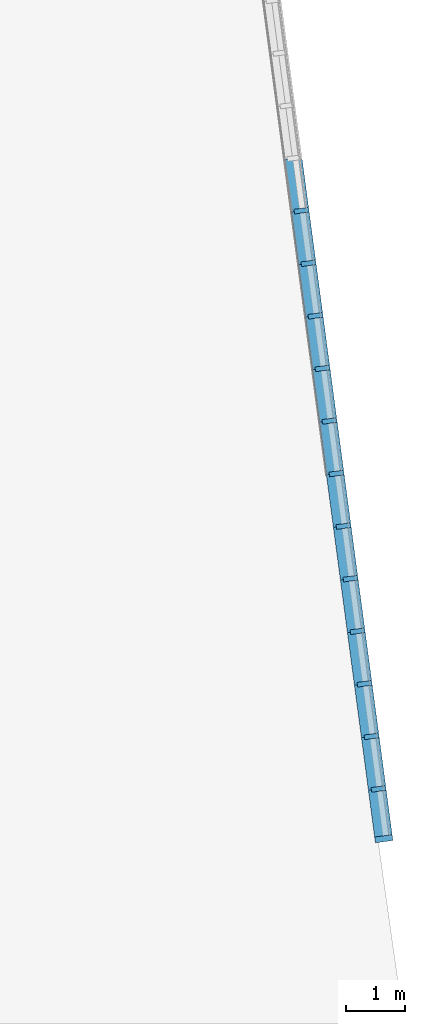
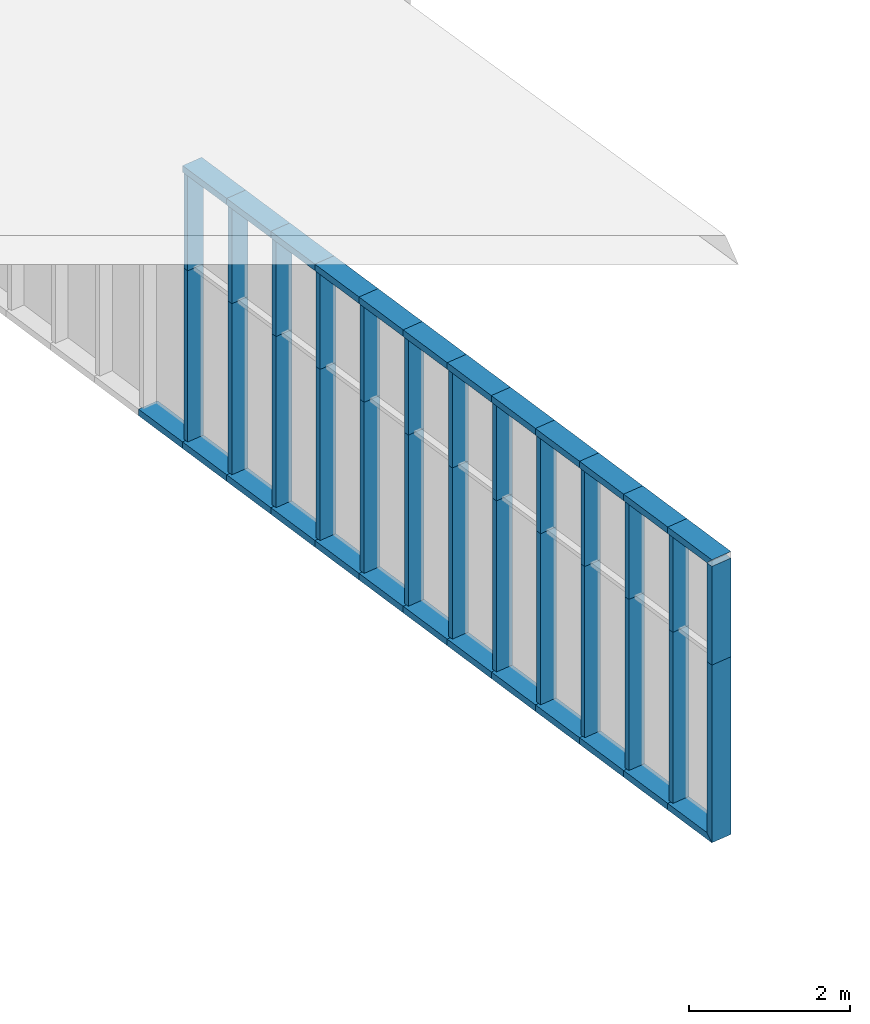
# One storey, part 1 of 17: 51 members, 1 element without a shape of its own.
"""IFC2X3 building model written with IfcOpenShell, lengths in metres."""

from ifc_helpers import new_model, entity, si_unit, converted_unit, money_unit, direction, frame, origin_with_axes, place, context, subcontext, project, spatial, polyline, outline, extrude, clip, halfspace, material, type_object, element, aggregate, save


model = new_model("IFC2X3")

# Units and contexts
model_context = context("Model", 3, precision=1e-05, world=origin_with_axes(), true_north=direction((0.0, 1.0)))
body_context = subcontext(model_context, "Body", "Model", "MODEL_VIEW")
ifc_project = project(units=[si_unit("LENGTHUNIT", "METRE"), si_unit("AREAUNIT", "SQUARE_METRE"), si_unit("VOLUMEUNIT", "CUBIC_METRE"), converted_unit("PLANEANGLEUNIT", "DEGREE", entity("IfcPlaneAngleMeasure", 0.0174532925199), si_unit("PLANEANGLEUNIT", "RADIAN"), dimensions=[0, 0, 0, 0, 0, 0, 0]), si_unit("SOLIDANGLEUNIT", "STERADIAN"), money_unit("EUR"), converted_unit("TIMEUNIT", "Year", entity("IfcTimeMeasure", 31556926.0), si_unit("TIMEUNIT", "SECOND"), dimensions=[0, 0, 0, 0, 0, 0, 0]), si_unit("MASSUNIT", "GRAM"), si_unit("THERMODYNAMICTEMPERATUREUNIT", "DEGREE_CELSIUS"), si_unit("LUMINOUSINTENSITYUNIT", "LUMEN")], contexts=[model_context])

# Site, building, storey
site_placement = place(None, origin_with_axes())
site = spatial("IfcSite", under=ifc_project, at=site_placement, Name="Undefined", CompositionType="ELEMENT")
building_placement = place(site_placement, origin_with_axes())
building = spatial("IfcBuilding", under=site, at=building_placement, Name="Undefined", CompositionType="ELEMENT")
storey_placement = place(building_placement, frame((0.0, 0.0, 9.425), z_axis=(0.0, 0.0, 1.0), x_axis=(1.0, 0.0, 0.0)))
storey = spatial("IfcBuildingStorey", under=building, at=storey_placement, Name="Mezzannine", CompositionType="ELEMENT", Elevation=9.425)

# Curtain wall, members
curtain_wall_type = type_object("IfcCurtainWallType", Name="Type de mur-rideau", PredefinedType="NOTDEFINED")
curtain_wall_placement = place(storey_placement, frame((66.1412459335, 18.707491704, -9.32500003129), z_axis=(0.0, 0.0, 1.0), x_axis=(1.0, 0.0, 0.0)))
curtain_wall = element("IfcCurtainWall", 1, at=curtain_wall_placement, inside=storey, type_object=curtain_wall_type, Name="CurtainWall_02", ObjectType="CURTAIN WALL")
ifc_material = material(Name="25 % 359672764")
member_type_1 = type_object("IfcMemberType", Name="Cadre 100 x 300", PredefinedType="NOTDEFINED")
member_1_placement = place(curtain_wall_placement, frame((1.96156196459, -14.7198768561, -1.0673850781e-07), z_axis=(-0.132091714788, 0.991237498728, 0.0), x_axis=(0.0, 0.0, 1.0)))
member_1 = element("IfcMember", 2, at=member_1_placement, type_object=member_type_1, material=ifc_material, Name="Frame-Bnd-429", context=body_context, shape_type="SweptSolid", body=[
    extrude(outline(polyline([(-0.25, -0.1), (0.05, -0.1), (0.05, 0.0), (-0.25, 0.0), (-0.25, -0.1)])), frame((0.0, 0.0, 0.0), z_axis=(0.0, 0.0, 1.0), x_axis=(0.0, 1.0, 0.0)), (0.0, 0.0, 1.0), 0.9),
])
member_2_placement = place(curtain_wall_placement, frame((0.772736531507, -5.79873936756, -1.0673850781e-07), z_axis=(-0.132091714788, 0.991237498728, 0.0), x_axis=(0.0, 0.0, 1.0)))
member_2 = element("IfcMember", 3, at=member_2_placement, type_object=member_type_1, material=ifc_material, Name="Frame-Bnd-419", context=body_context, shape_type="SweptSolid", body=[
    extrude(outline(polyline([(-0.25, -0.1), (0.05, -0.1), (0.05, 0.0), (-0.25, 0.0), (-0.25, -0.1)])), frame((0.0, 0.0, 0.0), z_axis=(0.0, 0.0, 1.0), x_axis=(0.0, 1.0, 0.0)), (0.0, 0.0, 1.0), 0.9),
])
member_3_placement = place(curtain_wall_placement, frame((1.84267942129, -13.8277631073, -1.0673850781e-07), z_axis=(-0.132091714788, 0.991237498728, 0.0), x_axis=(0.0, 0.0, 1.0)))
member_3 = element("IfcMember", 4, at=member_3_placement, type_object=member_type_1, material=ifc_material, Name="Frame-Bnd-428", context=body_context, shape_type="SweptSolid", body=[
    extrude(outline(polyline([(-0.25, -0.1), (0.05, -0.1), (0.05, 0.0), (-0.25, 0.0), (-0.25, -0.1)])), frame((0.0, 0.0, 0.0), z_axis=(0.0, 0.0, 1.0), x_axis=(0.0, 1.0, 0.0)), (0.0, 0.0, 1.0), 0.9),
])
member_4_placement = place(curtain_wall_placement, frame((1.72379687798, -12.9356493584, -1.0673850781e-07), z_axis=(-0.132091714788, 0.991237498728, 0.0), x_axis=(0.0, 0.0, 1.0)))
member_4 = element("IfcMember", 5, at=member_4_placement, type_object=member_type_1, material=ifc_material, Name="Frame-Bnd-427", context=body_context, shape_type="SweptSolid", body=[
    extrude(outline(polyline([(-0.25, -0.1), (0.05, -0.1), (0.05, 0.0), (-0.25, 0.0), (-0.25, -0.1)])), frame((0.0, 0.0, 0.0), z_axis=(0.0, 0.0, 1.0), x_axis=(0.0, 1.0, 0.0)), (0.0, 0.0, 1.0), 0.9),
])
member_5_placement = place(curtain_wall_placement, frame((0.653853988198, -4.9066256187, -1.0673850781e-07), z_axis=(-0.132091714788, 0.991237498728, 0.0), x_axis=(0.0, 0.0, 1.0)))
member_5 = element("IfcMember", 6, at=member_5_placement, type_object=member_type_1, material=ifc_material, Name="Frame-Bnd-418", context=body_context, shape_type="SweptSolid", body=[
    extrude(outline(polyline([(-0.25, -0.1), (0.05, -0.1), (0.05, 0.0), (-0.25, 0.0), (-0.25, -0.1)])), frame((0.0, 0.0, 0.0), z_axis=(0.0, 0.0, 1.0), x_axis=(0.0, 1.0, 0.0)), (0.0, 0.0, 1.0), 0.9),
])
member_6_placement = place(curtain_wall_placement, frame((1.60491433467, -12.0435356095, -1.0673850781e-07), z_axis=(-0.132091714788, 0.991237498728, 0.0), x_axis=(0.0, 0.0, 1.0)))
member_6 = element("IfcMember", 7, at=member_6_placement, type_object=member_type_1, material=ifc_material, Name="Frame-Bnd-426", context=body_context, shape_type="SweptSolid", body=[
    extrude(outline(polyline([(-0.25, -0.1), (0.05, -0.1), (0.05, 0.0), (-0.25, 0.0), (-0.25, -0.1)])), frame((0.0, 0.0, 0.0), z_axis=(0.0, 0.0, 1.0), x_axis=(0.0, 1.0, 0.0)), (0.0, 0.0, 1.0), 0.9),
])
member_7_placement = place(curtain_wall_placement, frame((1.48603179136, -11.1514218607, -1.0673850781e-07), z_axis=(-0.132091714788, 0.991237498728, 0.0), x_axis=(0.0, 0.0, 1.0)))
member_7 = element("IfcMember", 8, at=member_7_placement, type_object=member_type_1, material=ifc_material, Name="Frame-Bnd-425", context=body_context, shape_type="SweptSolid", body=[
    extrude(outline(polyline([(-0.25, -0.1), (0.05, -0.1), (0.05, 0.0), (-0.25, 0.0), (-0.25, -0.1)])), frame((0.0, 0.0, 0.0), z_axis=(0.0, 0.0, 1.0), x_axis=(0.0, 1.0, 0.0)), (0.0, 0.0, 1.0), 0.9),
])
member_8_placement = place(curtain_wall_placement, frame((1.36714924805, -10.2593081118, -1.0673850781e-07), z_axis=(-0.132091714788, 0.991237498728, 0.0), x_axis=(0.0, 0.0, 1.0)))
member_8 = element("IfcMember", 9, at=member_8_placement, type_object=member_type_1, material=ifc_material, Name="Frame-Bnd-424", context=body_context, shape_type="SweptSolid", body=[
    extrude(outline(polyline([(-0.25, -0.1), (0.05, -0.1), (0.05, 0.0), (-0.25, 0.0), (-0.25, -0.1)])), frame((0.0, 0.0, 0.0), z_axis=(0.0, 0.0, 1.0), x_axis=(0.0, 1.0, 0.0)), (0.0, 0.0, 1.0), 0.9),
])
member_9_placement = place(curtain_wall_placement, frame((1.24826670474, -9.36719436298, -1.0673850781e-07), z_axis=(-0.132091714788, 0.991237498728, 0.0), x_axis=(0.0, 0.0, 1.0)))
member_9 = element("IfcMember", 10, at=member_9_placement, type_object=member_type_1, material=ifc_material, Name="Frame-Bnd-423", context=body_context, shape_type="SweptSolid", body=[
    extrude(outline(polyline([(-0.25, -0.1), (0.05, -0.1), (0.05, 0.0), (-0.25, 0.0), (-0.25, -0.1)])), frame((0.0, 0.0, 0.0), z_axis=(0.0, 0.0, 1.0), x_axis=(0.0, 1.0, 0.0)), (0.0, 0.0, 1.0), 0.9),
])
member_10_placement = place(curtain_wall_placement, frame((1.12938416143, -8.47508061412, -1.0673850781e-07), z_axis=(-0.132091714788, 0.991237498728, 0.0), x_axis=(0.0, 0.0, 1.0)))
member_10 = element("IfcMember", 11, at=member_10_placement, type_object=member_type_1, material=ifc_material, Name="Frame-Bnd-422", context=body_context, shape_type="SweptSolid", body=[
    extrude(outline(polyline([(-0.25, -0.1), (0.05, -0.1), (0.05, 0.0), (-0.25, 0.0), (-0.25, -0.1)])), frame((0.0, 0.0, 0.0), z_axis=(0.0, 0.0, 1.0), x_axis=(0.0, 1.0, 0.0)), (0.0, 0.0, 1.0), 0.9),
])
member_11_placement = place(curtain_wall_placement, frame((2.0804445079, -15.611990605, -1.0673850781e-07), z_axis=(0.0, 0.0, 1.0), x_axis=(0.132091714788, -0.991237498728, 0.0)))
member_11 = element("IfcMember", 12, at=member_11_placement, type_object=member_type_1, material=ifc_material, Name="Frame-Bnd-236", context=body_context, shape_type="Clipping", body=[
    clip(extrude(outline(polyline([(-0.247809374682, -0.0330229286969), (0.0495618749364, 0.00660458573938), (0.0363527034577, 0.105728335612), (-0.261018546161, 0.0661008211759), (-0.247809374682, -0.0330229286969)])), frame((0.0, 0.0, 0.0), z_axis=(0.0, 0.0, 1.0), x_axis=(0.132091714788, 0.991237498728, 0.0)), (0.0, 0.0, 1.0), 2.70000013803), halfspace(frame((0.0, 0.0, 0.0), z_axis=(0.707106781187, 0.0, 0.707106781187), x_axis=(0.0, -1.0, 0.0)), True)),
])
member_12_placement = place(curtain_wall_placement, frame((1.01050161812, -7.58296686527, -1.0673850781e-07), z_axis=(-0.132091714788, 0.991237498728, 0.0), x_axis=(0.0, 0.0, 1.0)))
member_12 = element("IfcMember", 13, at=member_12_placement, type_object=member_type_1, material=ifc_material, Name="Frame-Bnd-421", context=body_context, shape_type="SweptSolid", body=[
    extrude(outline(polyline([(-0.25, -0.1), (0.05, -0.1), (0.05, 0.0), (-0.25, 0.0), (-0.25, -0.1)])), frame((0.0, 0.0, 0.0), z_axis=(0.0, 0.0, 1.0), x_axis=(0.0, 1.0, 0.0)), (0.0, 0.0, 1.0), 0.9),
])
member_13_placement = place(curtain_wall_placement, frame((0.891619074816, -6.69085311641, -1.0673850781e-07), z_axis=(-0.132091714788, 0.991237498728, 0.0), x_axis=(0.0, 0.0, 1.0)))
member_13 = element("IfcMember", 14, at=member_13_placement, type_object=member_type_1, material=ifc_material, Name="Frame-Bnd-420", context=body_context, shape_type="SweptSolid", body=[
    extrude(outline(polyline([(-0.25, -0.1), (0.05, -0.1), (0.05, 0.0), (-0.25, 0.0), (-0.25, -0.1)])), frame((0.0, 0.0, 0.0), z_axis=(0.0, 0.0, 1.0), x_axis=(0.0, 1.0, 0.0)), (0.0, 0.0, 1.0), 0.9),
])
member_14_placement = place(curtain_wall_placement, frame((1.84267942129, -13.8277631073, 4.29999999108), z_axis=(0.132091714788, -0.991237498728, 0.0), x_axis=(0.0, 0.0, -1.0)))
member_14 = element("IfcMember", 15, at=member_14_placement, type_object=member_type_1, material=ifc_material, Name="Frame-Bnd-287", context=body_context, shape_type="SweptSolid", body=[
    extrude(outline(polyline([(0.25, 0.1), (-0.05, 0.1), (-0.05, 0.0), (0.25, 0.0), (0.25, 0.1)])), frame((0.0, 0.0, 0.0), z_axis=(0.0, 0.0, 1.0), x_axis=(0.0, -1.0, 0.0)), (0.0, 0.0, 1.0), 0.9),
])
member_15_placement = place(curtain_wall_placement, frame((2.0804445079, -15.611990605, 2.70000003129), z_axis=(0.0, 0.0, 1.0), x_axis=(0.132091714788, -0.991237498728, 0.0)))
member_15 = element("IfcMember", 16, at=member_15_placement, type_object=member_type_1, material=ifc_material, Name="Frame-Bnd-236", context=body_context, shape_type="SweptSolid", body=[
    extrude(outline(polyline([(-0.247809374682, -0.0330229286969), (0.0495618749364, 0.00660458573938), (0.0363527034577, 0.105728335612), (-0.261018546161, 0.0661008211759), (-0.247809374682, -0.0330229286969)])), frame((0.0, 0.0, 0.0), z_axis=(0.0, 0.0, 1.0), x_axis=(0.132091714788, 0.991237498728, 0.0)), (0.0, 0.0, 1.0), 1.5),
])
member_16_placement = place(curtain_wall_placement, frame((0.653853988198, -4.9066256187, 4.29999999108), z_axis=(0.132091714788, -0.991237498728, 0.0), x_axis=(0.0, 0.0, -1.0)))
member_16 = element("IfcMember", 17, at=member_16_placement, type_object=member_type_1, material=ifc_material, Name="Frame-Bnd-297", context=body_context, shape_type="SweptSolid", body=[
    extrude(outline(polyline([(0.25, 0.1), (-0.05, 0.1), (-0.05, 0.0), (0.25, 0.0), (0.25, 0.1)])), frame((0.0, 0.0, 0.0), z_axis=(0.0, 0.0, 1.0), x_axis=(0.0, -1.0, 0.0)), (0.0, 0.0, 1.0), 0.9),
])
member_17_placement = place(curtain_wall_placement, frame((2.0804445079, -15.611990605, -1.0673850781e-07), z_axis=(-0.132091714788, 0.991237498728, 0.0), x_axis=(0.0, 0.0, 1.0)))
member_17 = element("IfcMember", 18, at=member_17_placement, type_object=member_type_1, material=ifc_material, Name="Frame-Bnd-430", context=body_context, shape_type="Clipping", body=[
    clip(extrude(outline(polyline([(-0.25, -0.1), (0.05, -0.1), (0.05, 0.0), (-0.25, 0.0), (-0.25, -0.1)])), frame((0.0, 0.0, 0.0), z_axis=(0.0, 0.0, 1.0), x_axis=(0.0, 1.0, 0.0)), (0.0, 0.0, 1.0), 0.9), halfspace(frame((0.0, 0.0, 0.0), z_axis=(-0.707106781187, 0.0, 0.707106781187), x_axis=(0.0, -1.0, 0.0)), True)),
])
member_18_placement = place(curtain_wall_placement, frame((1.72379687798, -12.9356493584, 4.29999999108), z_axis=(0.132091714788, -0.991237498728, 0.0), x_axis=(0.0, 0.0, -1.0)))
member_18 = element("IfcMember", 19, at=member_18_placement, type_object=member_type_1, material=ifc_material, Name="Frame-Bnd-288", context=body_context, shape_type="SweptSolid", body=[
    extrude(outline(polyline([(0.25, 0.1), (-0.05, 0.1), (-0.05, 0.0), (0.25, 0.0), (0.25, 0.1)])), frame((0.0, 0.0, 0.0), z_axis=(0.0, 0.0, 1.0), x_axis=(0.0, -1.0, 0.0)), (0.0, 0.0, 1.0), 0.9),
])
member_19_placement = place(curtain_wall_placement, frame((1.96156196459, -14.7198768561, 4.29999999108), z_axis=(0.132091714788, -0.991237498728, 0.0), x_axis=(0.0, 0.0, -1.0)))
member_19 = element("IfcMember", 20, at=member_19_placement, type_object=member_type_1, material=ifc_material, Name="Frame-Bnd-286", context=body_context, shape_type="Clipping", body=[
    clip(extrude(outline(polyline([(0.25, 0.1), (-0.05, 0.1), (-0.05, 0.0), (0.25, 0.0), (0.25, 0.1)])), frame((0.0, 0.0, 0.0), z_axis=(0.0, 0.0, 1.0), x_axis=(0.0, -1.0, 0.0)), (0.0, 0.0, 1.0), 0.9), halfspace(frame((0.45, 0.0, 0.45), z_axis=(-0.707106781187, 0.0, -0.707106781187), x_axis=(0.0, 1.0, 0.0)), True)),
])
member_20_placement = place(curtain_wall_placement, frame((0.772736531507, -5.79873936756, 4.29999999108), z_axis=(0.132091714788, -0.991237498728, 0.0), x_axis=(0.0, 0.0, -1.0)))
member_20 = element("IfcMember", 21, at=member_20_placement, type_object=member_type_1, material=ifc_material, Name="Frame-Bnd-296", context=body_context, shape_type="SweptSolid", body=[
    extrude(outline(polyline([(0.25, 0.1), (-0.05, 0.1), (-0.05, 0.0), (0.25, 0.0), (0.25, 0.1)])), frame((0.0, 0.0, 0.0), z_axis=(0.0, 0.0, 1.0), x_axis=(0.0, -1.0, 0.0)), (0.0, 0.0, 1.0), 0.9),
])
member_21_placement = place(curtain_wall_placement, frame((0.891619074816, -6.69085311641, 4.29999999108), z_axis=(0.132091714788, -0.991237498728, 0.0), x_axis=(0.0, 0.0, -1.0)))
member_21 = element("IfcMember", 22, at=member_21_placement, type_object=member_type_1, material=ifc_material, Name="Frame-Bnd-295", context=body_context, shape_type="SweptSolid", body=[
    extrude(outline(polyline([(0.25, 0.1), (-0.05, 0.1), (-0.05, 0.0), (0.25, 0.0), (0.25, 0.1)])), frame((0.0, 0.0, 0.0), z_axis=(0.0, 0.0, 1.0), x_axis=(0.0, -1.0, 0.0)), (0.0, 0.0, 1.0), 0.9),
])
member_22_placement = place(curtain_wall_placement, frame((1.01050161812, -7.58296686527, 4.29999999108), z_axis=(0.132091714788, -0.991237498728, 0.0), x_axis=(0.0, 0.0, -1.0)))
member_22 = element("IfcMember", 23, at=member_22_placement, type_object=member_type_1, material=ifc_material, Name="Frame-Bnd-294", context=body_context, shape_type="SweptSolid", body=[
    extrude(outline(polyline([(0.25, 0.1), (-0.05, 0.1), (-0.05, 0.0), (0.25, 0.0), (0.25, 0.1)])), frame((0.0, 0.0, 0.0), z_axis=(0.0, 0.0, 1.0), x_axis=(0.0, -1.0, 0.0)), (0.0, 0.0, 1.0), 0.9),
])
member_23_placement = place(curtain_wall_placement, frame((1.12938416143, -8.47508061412, 4.29999999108), z_axis=(0.132091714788, -0.991237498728, 0.0), x_axis=(0.0, 0.0, -1.0)))
member_23 = element("IfcMember", 24, at=member_23_placement, type_object=member_type_1, material=ifc_material, Name="Frame-Bnd-293", context=body_context, shape_type="SweptSolid", body=[
    extrude(outline(polyline([(0.25, 0.1), (-0.05, 0.1), (-0.05, 0.0), (0.25, 0.0), (0.25, 0.1)])), frame((0.0, 0.0, 0.0), z_axis=(0.0, 0.0, 1.0), x_axis=(0.0, -1.0, 0.0)), (0.0, 0.0, 1.0), 0.9),
])
member_24_placement = place(curtain_wall_placement, frame((1.24826670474, -9.36719436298, 4.29999999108), z_axis=(0.132091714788, -0.991237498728, 0.0), x_axis=(0.0, 0.0, -1.0)))
member_24 = element("IfcMember", 25, at=member_24_placement, type_object=member_type_1, material=ifc_material, Name="Frame-Bnd-292", context=body_context, shape_type="SweptSolid", body=[
    extrude(outline(polyline([(0.25, 0.1), (-0.05, 0.1), (-0.05, 0.0), (0.25, 0.0), (0.25, 0.1)])), frame((0.0, 0.0, 0.0), z_axis=(0.0, 0.0, 1.0), x_axis=(0.0, -1.0, 0.0)), (0.0, 0.0, 1.0), 0.9),
])
member_25_placement = place(curtain_wall_placement, frame((1.36714924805, -10.2593081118, 4.29999999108), z_axis=(0.132091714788, -0.991237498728, 0.0), x_axis=(0.0, 0.0, -1.0)))
member_25 = element("IfcMember", 26, at=member_25_placement, type_object=member_type_1, material=ifc_material, Name="Frame-Bnd-291", context=body_context, shape_type="SweptSolid", body=[
    extrude(outline(polyline([(0.25, 0.1), (-0.05, 0.1), (-0.05, 0.0), (0.25, 0.0), (0.25, 0.1)])), frame((0.0, 0.0, 0.0), z_axis=(0.0, 0.0, 1.0), x_axis=(0.0, -1.0, 0.0)), (0.0, 0.0, 1.0), 0.9),
])
member_26_placement = place(curtain_wall_placement, frame((1.48603179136, -11.1514218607, 4.29999999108), z_axis=(0.132091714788, -0.991237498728, 0.0), x_axis=(0.0, 0.0, -1.0)))
member_26 = element("IfcMember", 27, at=member_26_placement, type_object=member_type_1, material=ifc_material, Name="Frame-Bnd-290", context=body_context, shape_type="SweptSolid", body=[
    extrude(outline(polyline([(0.25, 0.1), (-0.05, 0.1), (-0.05, 0.0), (0.25, 0.0), (0.25, 0.1)])), frame((0.0, 0.0, 0.0), z_axis=(0.0, 0.0, 1.0), x_axis=(0.0, -1.0, 0.0)), (0.0, 0.0, 1.0), 0.9),
])
member_27_placement = place(curtain_wall_placement, frame((1.60491433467, -12.0435356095, 4.29999999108), z_axis=(0.132091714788, -0.991237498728, 0.0), x_axis=(0.0, 0.0, -1.0)))
member_27 = element("IfcMember", 28, at=member_27_placement, type_object=member_type_1, material=ifc_material, Name="Frame-Bnd-289", context=body_context, shape_type="SweptSolid", body=[
    extrude(outline(polyline([(0.25, 0.1), (-0.05, 0.1), (-0.05, 0.0), (0.25, 0.0), (0.25, 0.1)])), frame((0.0, 0.0, 0.0), z_axis=(0.0, 0.0, 1.0), x_axis=(0.0, -1.0, 0.0)), (0.0, 0.0, 1.0), 0.9),
])
member_type_2 = type_object("IfcMemberType", Name="Montant 80 x 250", PredefinedType="NOTDEFINED")
member_28_placement = place(curtain_wall_placement, frame((1.96156196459, -14.7198768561, -1.0673850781e-07), z_axis=(0.0, 0.0, 1.0), x_axis=(0.132091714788, -0.991237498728, 0.0)))
member_28 = element("IfcMember", 29, at=member_28_placement, type_object=member_type_2, material=ifc_material, Name="Frame-Mll-458", context=body_context, shape_type="SweptSolid", body=[
    extrude(outline(polyline([(-0.192963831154, -0.0660678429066), (0.0548455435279, -0.0330449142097), (0.0442782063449, 0.0462540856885), (-0.203531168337, 0.0132311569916), (-0.192963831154, -0.0660678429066)])), frame((0.0, 0.0, 0.1), z_axis=(0.0, 0.0, 1.0), x_axis=(0.132091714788, 0.991237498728, 0.0)), (0.0, 0.0, 1.0), 2.60000013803),
])
member_29_placement = place(curtain_wall_placement, frame((1.84267942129, -13.8277631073, -1.0673850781e-07), z_axis=(0.0, 0.0, 1.0), x_axis=(0.132091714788, -0.991237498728, 0.0)))
member_29 = element("IfcMember", 30, at=member_29_placement, type_object=member_type_2, material=ifc_material, Name="Frame-Mll-458", context=body_context, shape_type="SweptSolid", body=[
    extrude(outline(polyline([(-0.192963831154, -0.0660678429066), (0.0548455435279, -0.0330449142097), (0.0442782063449, 0.0462540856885), (-0.203531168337, 0.0132311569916), (-0.192963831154, -0.0660678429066)])), frame((0.0, 0.0, 0.1), z_axis=(0.0, 0.0, 1.0), x_axis=(0.132091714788, 0.991237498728, 0.0)), (0.0, 0.0, 1.0), 2.60000013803),
])
member_30_placement = place(curtain_wall_placement, frame((1.72379687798, -12.9356493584, -1.0673850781e-07), z_axis=(0.0, 0.0, 1.0), x_axis=(0.132091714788, -0.991237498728, 0.0)))
member_30 = element("IfcMember", 31, at=member_30_placement, type_object=member_type_2, material=ifc_material, Name="Frame-Mll-458", context=body_context, shape_type="SweptSolid", body=[
    extrude(outline(polyline([(-0.192963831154, -0.0660678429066), (0.0548455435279, -0.0330449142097), (0.0442782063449, 0.0462540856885), (-0.203531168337, 0.0132311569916), (-0.192963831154, -0.0660678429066)])), frame((0.0, 0.0, 0.1), z_axis=(0.0, 0.0, 1.0), x_axis=(0.132091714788, 0.991237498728, 0.0)), (0.0, 0.0, 1.0), 2.60000013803),
])
member_31_placement = place(curtain_wall_placement, frame((1.60491433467, -12.0435356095, -1.0673850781e-07), z_axis=(0.0, 0.0, 1.0), x_axis=(0.132091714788, -0.991237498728, 0.0)))
member_31 = element("IfcMember", 32, at=member_31_placement, type_object=member_type_2, material=ifc_material, Name="Frame-Mll-458", context=body_context, shape_type="SweptSolid", body=[
    extrude(outline(polyline([(-0.192963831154, -0.0660678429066), (0.0548455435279, -0.0330449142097), (0.0442782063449, 0.0462540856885), (-0.203531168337, 0.0132311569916), (-0.192963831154, -0.0660678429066)])), frame((0.0, 0.0, 0.1), z_axis=(0.0, 0.0, 1.0), x_axis=(0.132091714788, 0.991237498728, 0.0)), (0.0, 0.0, 1.0), 2.60000013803),
])
member_32_placement = place(curtain_wall_placement, frame((1.48603179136, -11.1514218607, -1.0673850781e-07), z_axis=(0.0, 0.0, 1.0), x_axis=(0.132091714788, -0.991237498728, 0.0)))
member_32 = element("IfcMember", 33, at=member_32_placement, type_object=member_type_2, material=ifc_material, Name="Frame-Mll-458", context=body_context, shape_type="SweptSolid", body=[
    extrude(outline(polyline([(-0.192963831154, -0.0660678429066), (0.0548455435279, -0.0330449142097), (0.0442782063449, 0.0462540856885), (-0.203531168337, 0.0132311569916), (-0.192963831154, -0.0660678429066)])), frame((0.0, 0.0, 0.1), z_axis=(0.0, 0.0, 1.0), x_axis=(0.132091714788, 0.991237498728, 0.0)), (0.0, 0.0, 1.0), 2.60000013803),
])
member_33_placement = place(curtain_wall_placement, frame((1.36714924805, -10.2593081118, -1.0673850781e-07), z_axis=(0.0, 0.0, 1.0), x_axis=(0.132091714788, -0.991237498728, 0.0)))
member_33 = element("IfcMember", 34, at=member_33_placement, type_object=member_type_2, material=ifc_material, Name="Frame-Mll-458", context=body_context, shape_type="SweptSolid", body=[
    extrude(outline(polyline([(-0.192963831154, -0.0660678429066), (0.0548455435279, -0.0330449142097), (0.0442782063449, 0.0462540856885), (-0.203531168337, 0.0132311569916), (-0.192963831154, -0.0660678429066)])), frame((0.0, 0.0, 0.1), z_axis=(0.0, 0.0, 1.0), x_axis=(0.132091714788, 0.991237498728, 0.0)), (0.0, 0.0, 1.0), 2.60000013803),
])
member_34_placement = place(curtain_wall_placement, frame((1.24826670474, -9.36719436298, -1.0673850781e-07), z_axis=(0.0, 0.0, 1.0), x_axis=(0.132091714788, -0.991237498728, 0.0)))
member_34 = element("IfcMember", 35, at=member_34_placement, type_object=member_type_2, material=ifc_material, Name="Frame-Mll-458", context=body_context, shape_type="SweptSolid", body=[
    extrude(outline(polyline([(-0.192963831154, -0.0660678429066), (0.0548455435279, -0.0330449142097), (0.0442782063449, 0.0462540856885), (-0.203531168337, 0.0132311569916), (-0.192963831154, -0.0660678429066)])), frame((0.0, 0.0, 0.1), z_axis=(0.0, 0.0, 1.0), x_axis=(0.132091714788, 0.991237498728, 0.0)), (0.0, 0.0, 1.0), 2.60000013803),
])
member_35_placement = place(curtain_wall_placement, frame((1.12938416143, -8.47508061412, -1.0673850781e-07), z_axis=(0.0, 0.0, 1.0), x_axis=(0.132091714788, -0.991237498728, 0.0)))
member_35 = element("IfcMember", 36, at=member_35_placement, type_object=member_type_2, material=ifc_material, Name="Frame-Mll-458", context=body_context, shape_type="SweptSolid", body=[
    extrude(outline(polyline([(-0.192963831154, -0.0660678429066), (0.0548455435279, -0.0330449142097), (0.0442782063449, 0.0462540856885), (-0.203531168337, 0.0132311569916), (-0.192963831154, -0.0660678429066)])), frame((0.0, 0.0, 0.1), z_axis=(0.0, 0.0, 1.0), x_axis=(0.132091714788, 0.991237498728, 0.0)), (0.0, 0.0, 1.0), 2.60000013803),
])
member_36_placement = place(curtain_wall_placement, frame((1.01050161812, -7.58296686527, -1.0673850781e-07), z_axis=(0.0, 0.0, 1.0), x_axis=(0.132091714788, -0.991237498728, 0.0)))
member_36 = element("IfcMember", 37, at=member_36_placement, type_object=member_type_2, material=ifc_material, Name="Frame-Mll-458", context=body_context, shape_type="SweptSolid", body=[
    extrude(outline(polyline([(-0.192963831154, -0.0660678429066), (0.0548455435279, -0.0330449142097), (0.0442782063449, 0.0462540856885), (-0.203531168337, 0.0132311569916), (-0.192963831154, -0.0660678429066)])), frame((0.0, 0.0, 0.1), z_axis=(0.0, 0.0, 1.0), x_axis=(0.132091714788, 0.991237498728, 0.0)), (0.0, 0.0, 1.0), 2.60000013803),
])
member_37_placement = place(curtain_wall_placement, frame((0.891619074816, -6.69085311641, -1.0673850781e-07), z_axis=(0.0, 0.0, 1.0), x_axis=(0.132091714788, -0.991237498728, 0.0)))
member_37 = element("IfcMember", 38, at=member_37_placement, type_object=member_type_2, material=ifc_material, Name="Frame-Mll-458", context=body_context, shape_type="SweptSolid", body=[
    extrude(outline(polyline([(-0.192963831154, -0.0660678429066), (0.0548455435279, -0.0330449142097), (0.0442782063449, 0.0462540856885), (-0.203531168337, 0.0132311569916), (-0.192963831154, -0.0660678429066)])), frame((0.0, 0.0, 0.1), z_axis=(0.0, 0.0, 1.0), x_axis=(0.132091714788, 0.991237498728, 0.0)), (0.0, 0.0, 1.0), 2.60000013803),
])
member_38_placement = place(curtain_wall_placement, frame((0.772736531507, -5.79873936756, -1.0673850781e-07), z_axis=(0.0, 0.0, 1.0), x_axis=(0.132091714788, -0.991237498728, 0.0)))
member_38 = element("IfcMember", 39, at=member_38_placement, type_object=member_type_2, material=ifc_material, Name="Frame-Mll-458", context=body_context, shape_type="SweptSolid", body=[
    extrude(outline(polyline([(-0.192963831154, -0.0660678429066), (0.0548455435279, -0.0330449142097), (0.0442782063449, 0.0462540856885), (-0.203531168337, 0.0132311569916), (-0.192963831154, -0.0660678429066)])), frame((0.0, 0.0, 0.1), z_axis=(0.0, 0.0, 1.0), x_axis=(0.132091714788, 0.991237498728, 0.0)), (0.0, 0.0, 1.0), 2.60000013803),
])
member_39_placement = place(curtain_wall_placement, frame((0.653853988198, -4.9066256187, -1.0673850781e-07), z_axis=(0.0, 0.0, 1.0), x_axis=(0.132091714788, -0.991237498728, 0.0)))
member_39 = element("IfcMember", 40, at=member_39_placement, type_object=member_type_2, material=ifc_material, Name="Frame-Mll-458", context=body_context, shape_type="SweptSolid", body=[
    extrude(outline(polyline([(-0.192963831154, -0.0660678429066), (0.0548455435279, -0.0330449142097), (0.0442782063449, 0.0462540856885), (-0.203531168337, 0.0132311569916), (-0.192963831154, -0.0660678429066)])), frame((0.0, 0.0, 0.1), z_axis=(0.0, 0.0, 1.0), x_axis=(0.132091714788, 0.991237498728, 0.0)), (0.0, 0.0, 1.0), 2.60000013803),
])
member_40_placement = place(curtain_wall_placement, frame((1.96156196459, -14.7198768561, 2.70000003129), z_axis=(0.0, 0.0, 1.0), x_axis=(0.132091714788, -0.991237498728, 0.0)))
member_40 = element("IfcMember", 41, at=member_40_placement, type_object=member_type_2, material=ifc_material, Name="Frame-Mll-458", context=body_context, shape_type="SweptSolid", body=[
    extrude(outline(polyline([(-0.192963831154, -0.0660678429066), (0.0548455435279, -0.0330449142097), (0.0442782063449, 0.0462540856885), (-0.203531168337, 0.0132311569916), (-0.192963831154, -0.0660678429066)])), frame((0.0, 0.0, 0.0), z_axis=(0.0, 0.0, 1.0), x_axis=(0.132091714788, 0.991237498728, 0.0)), (0.0, 0.0, 1.0), 1.5),
])
member_41_placement = place(curtain_wall_placement, frame((1.84267942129, -13.8277631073, 2.70000003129), z_axis=(0.0, 0.0, 1.0), x_axis=(0.132091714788, -0.991237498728, 0.0)))
member_41 = element("IfcMember", 42, at=member_41_placement, type_object=member_type_2, material=ifc_material, Name="Frame-Mll-458", context=body_context, shape_type="SweptSolid", body=[
    extrude(outline(polyline([(-0.192963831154, -0.0660678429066), (0.0548455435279, -0.0330449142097), (0.0442782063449, 0.0462540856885), (-0.203531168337, 0.0132311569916), (-0.192963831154, -0.0660678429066)])), frame((0.0, 0.0, 0.0), z_axis=(0.0, 0.0, 1.0), x_axis=(0.132091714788, 0.991237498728, 0.0)), (0.0, 0.0, 1.0), 1.5),
])
member_42_placement = place(curtain_wall_placement, frame((1.72379687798, -12.9356493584, 2.70000003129), z_axis=(0.0, 0.0, 1.0), x_axis=(0.132091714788, -0.991237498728, 0.0)))
member_42 = element("IfcMember", 43, at=member_42_placement, type_object=member_type_2, material=ifc_material, Name="Frame-Mll-458", context=body_context, shape_type="SweptSolid", body=[
    extrude(outline(polyline([(-0.192963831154, -0.0660678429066), (0.0548455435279, -0.0330449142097), (0.0442782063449, 0.0462540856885), (-0.203531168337, 0.0132311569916), (-0.192963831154, -0.0660678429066)])), frame((0.0, 0.0, 0.0), z_axis=(0.0, 0.0, 1.0), x_axis=(0.132091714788, 0.991237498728, 0.0)), (0.0, 0.0, 1.0), 1.5),
])
member_43_placement = place(curtain_wall_placement, frame((1.60491433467, -12.0435356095, 2.70000003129), z_axis=(0.0, 0.0, 1.0), x_axis=(0.132091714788, -0.991237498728, 0.0)))
member_43 = element("IfcMember", 44, at=member_43_placement, type_object=member_type_2, material=ifc_material, Name="Frame-Mll-458", context=body_context, shape_type="SweptSolid", body=[
    extrude(outline(polyline([(-0.192963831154, -0.0660678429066), (0.0548455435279, -0.0330449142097), (0.0442782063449, 0.0462540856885), (-0.203531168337, 0.0132311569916), (-0.192963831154, -0.0660678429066)])), frame((0.0, 0.0, 0.0), z_axis=(0.0, 0.0, 1.0), x_axis=(0.132091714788, 0.991237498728, 0.0)), (0.0, 0.0, 1.0), 1.5),
])
member_44_placement = place(curtain_wall_placement, frame((1.48603179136, -11.1514218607, 2.70000003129), z_axis=(0.0, 0.0, 1.0), x_axis=(0.132091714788, -0.991237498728, 0.0)))
member_44 = element("IfcMember", 45, at=member_44_placement, type_object=member_type_2, material=ifc_material, Name="Frame-Mll-458", context=body_context, shape_type="SweptSolid", body=[
    extrude(outline(polyline([(-0.192963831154, -0.0660678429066), (0.0548455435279, -0.0330449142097), (0.0442782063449, 0.0462540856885), (-0.203531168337, 0.0132311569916), (-0.192963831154, -0.0660678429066)])), frame((0.0, 0.0, 0.0), z_axis=(0.0, 0.0, 1.0), x_axis=(0.132091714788, 0.991237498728, 0.0)), (0.0, 0.0, 1.0), 1.5),
])
member_45_placement = place(curtain_wall_placement, frame((1.36714924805, -10.2593081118, 2.70000003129), z_axis=(0.0, 0.0, 1.0), x_axis=(0.132091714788, -0.991237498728, 0.0)))
member_45 = element("IfcMember", 46, at=member_45_placement, type_object=member_type_2, material=ifc_material, Name="Frame-Mll-458", context=body_context, shape_type="SweptSolid", body=[
    extrude(outline(polyline([(-0.192963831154, -0.0660678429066), (0.0548455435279, -0.0330449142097), (0.0442782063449, 0.0462540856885), (-0.203531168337, 0.0132311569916), (-0.192963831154, -0.0660678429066)])), frame((0.0, 0.0, 0.0), z_axis=(0.0, 0.0, 1.0), x_axis=(0.132091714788, 0.991237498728, 0.0)), (0.0, 0.0, 1.0), 1.5),
])
member_46_placement = place(curtain_wall_placement, frame((1.24826670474, -9.36719436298, 2.70000003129), z_axis=(0.0, 0.0, 1.0), x_axis=(0.132091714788, -0.991237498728, 0.0)))
member_46 = element("IfcMember", 47, at=member_46_placement, type_object=member_type_2, material=ifc_material, Name="Frame-Mll-458", context=body_context, shape_type="SweptSolid", body=[
    extrude(outline(polyline([(-0.192963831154, -0.0660678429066), (0.0548455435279, -0.0330449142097), (0.0442782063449, 0.0462540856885), (-0.203531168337, 0.0132311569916), (-0.192963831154, -0.0660678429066)])), frame((0.0, 0.0, 0.0), z_axis=(0.0, 0.0, 1.0), x_axis=(0.132091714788, 0.991237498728, 0.0)), (0.0, 0.0, 1.0), 1.5),
])
member_47_placement = place(curtain_wall_placement, frame((1.12938416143, -8.47508061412, 2.70000003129), z_axis=(0.0, 0.0, 1.0), x_axis=(0.132091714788, -0.991237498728, 0.0)))
member_47 = element("IfcMember", 48, at=member_47_placement, type_object=member_type_2, material=ifc_material, Name="Frame-Mll-458", context=body_context, shape_type="SweptSolid", body=[
    extrude(outline(polyline([(-0.192963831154, -0.0660678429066), (0.0548455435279, -0.0330449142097), (0.0442782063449, 0.0462540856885), (-0.203531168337, 0.0132311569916), (-0.192963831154, -0.0660678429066)])), frame((0.0, 0.0, 0.0), z_axis=(0.0, 0.0, 1.0), x_axis=(0.132091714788, 0.991237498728, 0.0)), (0.0, 0.0, 1.0), 1.5),
])
member_48_placement = place(curtain_wall_placement, frame((1.01050161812, -7.58296686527, 2.70000003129), z_axis=(0.0, 0.0, 1.0), x_axis=(0.132091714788, -0.991237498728, 0.0)))
member_48 = element("IfcMember", 49, at=member_48_placement, type_object=member_type_2, material=ifc_material, Name="Frame-Mll-458", context=body_context, shape_type="SweptSolid", body=[
    extrude(outline(polyline([(-0.192963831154, -0.0660678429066), (0.0548455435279, -0.0330449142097), (0.0442782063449, 0.0462540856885), (-0.203531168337, 0.0132311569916), (-0.192963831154, -0.0660678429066)])), frame((0.0, 0.0, 0.0), z_axis=(0.0, 0.0, 1.0), x_axis=(0.132091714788, 0.991237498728, 0.0)), (0.0, 0.0, 1.0), 1.5),
])
member_49_placement = place(curtain_wall_placement, frame((0.891619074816, -6.69085311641, 2.70000003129), z_axis=(0.0, 0.0, 1.0), x_axis=(0.132091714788, -0.991237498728, 0.0)))
member_49 = element("IfcMember", 50, at=member_49_placement, type_object=member_type_2, material=ifc_material, Name="Frame-Mll-458", context=body_context, shape_type="SweptSolid", body=[
    extrude(outline(polyline([(-0.192963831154, -0.0660678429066), (0.0548455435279, -0.0330449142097), (0.0442782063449, 0.0462540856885), (-0.203531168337, 0.0132311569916), (-0.192963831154, -0.0660678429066)])), frame((0.0, 0.0, 0.0), z_axis=(0.0, 0.0, 1.0), x_axis=(0.132091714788, 0.991237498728, 0.0)), (0.0, 0.0, 1.0), 1.5),
])
member_50_placement = place(curtain_wall_placement, frame((0.772736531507, -5.79873936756, 2.70000003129), z_axis=(0.0, 0.0, 1.0), x_axis=(0.132091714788, -0.991237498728, 0.0)))
member_50 = element("IfcMember", 51, at=member_50_placement, type_object=member_type_2, material=ifc_material, Name="Frame-Mll-458", context=body_context, shape_type="SweptSolid", body=[
    extrude(outline(polyline([(-0.192963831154, -0.0660678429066), (0.0548455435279, -0.0330449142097), (0.0442782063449, 0.0462540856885), (-0.203531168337, 0.0132311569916), (-0.192963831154, -0.0660678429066)])), frame((0.0, 0.0, 0.0), z_axis=(0.0, 0.0, 1.0), x_axis=(0.132091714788, 0.991237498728, 0.0)), (0.0, 0.0, 1.0), 1.5),
])
member_51_placement = place(curtain_wall_placement, frame((0.653853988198, -4.9066256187, 2.70000003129), z_axis=(0.0, 0.0, 1.0), x_axis=(0.132091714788, -0.991237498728, 0.0)))
member_51 = element("IfcMember", 52, at=member_51_placement, type_object=member_type_2, material=ifc_material, Name="Frame-Mll-458", context=body_context, shape_type="SweptSolid", body=[
    extrude(outline(polyline([(-0.192963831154, -0.0660678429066), (0.0548455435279, -0.0330449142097), (0.0442782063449, 0.0462540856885), (-0.203531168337, 0.0132311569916), (-0.192963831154, -0.0660678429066)])), frame((0.0, 0.0, 0.0), z_axis=(0.0, 0.0, 1.0), x_axis=(0.132091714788, 0.991237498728, 0.0)), (0.0, 0.0, 1.0), 1.5),
])
aggregate(curtain_wall, [member_1, member_2, member_3, member_4, member_5, member_6, member_7, member_8, member_9, member_10, member_11, member_12, member_13, member_28, member_29, member_30, member_31, member_32, member_33, member_34, member_35, member_36, member_37, member_38, member_39, member_14, member_15, member_16, member_40, member_41, member_42, member_43, member_44, member_45, member_46, member_47, member_48, member_49, member_50, member_51, member_17, member_18, member_19, member_20, member_21, member_22, member_23, member_24, member_25, member_26, member_27])

save(model, "model.ifc")
